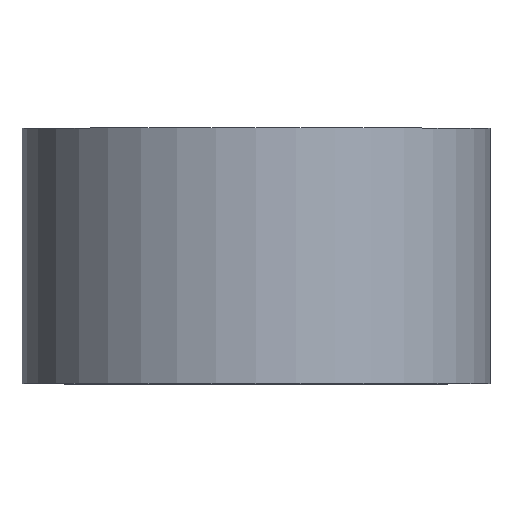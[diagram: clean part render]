
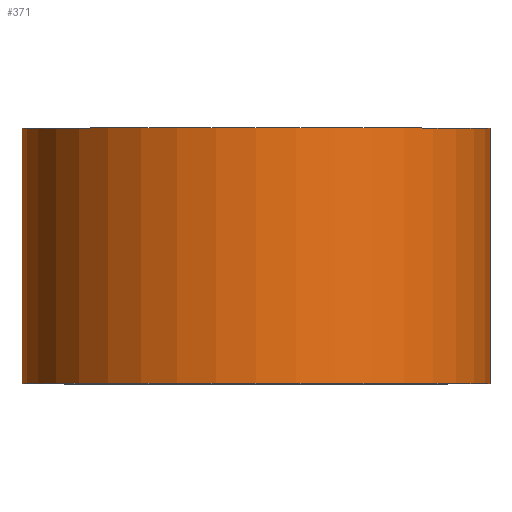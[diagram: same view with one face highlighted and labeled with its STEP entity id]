
A CAD part, top view. The second image highlights one B-rep face of the part: STEP entity #371.
In plain terms, the highlighted cylindrical face has radius 11 mm (diameter 22 mm), a partial arc.
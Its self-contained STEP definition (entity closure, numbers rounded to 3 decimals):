
#37=LINE('',#603,#73);
#41=LINE('',#610,#77);
#73=VECTOR('',#491,10.);
#77=VECTOR('',#497,10.);
#130=FACE_OUTER_BOUND('',#162,.T.);
#162=EDGE_LOOP('',(#310,#311,#312,#313));
#178=CIRCLE('',#412,11.);
#179=CIRCLE('',#413,11.);
#208=VERTEX_POINT('',#601);
#209=VERTEX_POINT('',#602);
#210=VERTEX_POINT('',#608);
#211=VERTEX_POINT('',#609);
#242=EDGE_CURVE('',#208,#209,#37,.T.);
#246=EDGE_CURVE('',#210,#211,#41,.T.);
#250=EDGE_CURVE('',#208,#211,#178,.T.);
#251=EDGE_CURVE('',#210,#209,#179,.T.);
#310=ORIENTED_EDGE('',*,*,#246,.T.);
#311=ORIENTED_EDGE('',*,*,#250,.F.);
#312=ORIENTED_EDGE('',*,*,#242,.T.);
#313=ORIENTED_EDGE('',*,*,#251,.F.);
#354=CYLINDRICAL_SURFACE('',#411,11.);
#371=ADVANCED_FACE('',(#130),#354,.T.);
#411=AXIS2_PLACEMENT_3D('',#614,#501,#502);
#412=AXIS2_PLACEMENT_3D('',#615,#503,#504);
#413=AXIS2_PLACEMENT_3D('',#616,#505,#506);
#491=DIRECTION('',(0.,-1.,0.));
#497=DIRECTION('',(0.,1.,0.));
#501=DIRECTION('center_axis',(0.,1.,0.));
#502=DIRECTION('ref_axis',(1.,0.,0.));
#503=DIRECTION('center_axis',(0.,1.,0.));
#504=DIRECTION('ref_axis',(1.,0.,0.));
#505=DIRECTION('center_axis',(0.,-1.,0.));
#506=DIRECTION('ref_axis',(1.,0.,0.));
#601=CARTESIAN_POINT('',(-5.951,6.,4.549));
#602=CARTESIAN_POINT('',(-5.951,-6.,4.549));
#603=CARTESIAN_POINT('',(-5.951,0.,4.549));
#608=CARTESIAN_POINT('',(5.951,-6.,4.549));
#609=CARTESIAN_POINT('',(5.951,6.,4.549));
#610=CARTESIAN_POINT('',(5.951,0.,4.549));
#614=CARTESIAN_POINT('Origin',(0.,0.,13.8));
#615=CARTESIAN_POINT('Origin',(0.,6.,13.8));
#616=CARTESIAN_POINT('Origin',(0.,-6.,13.8));
